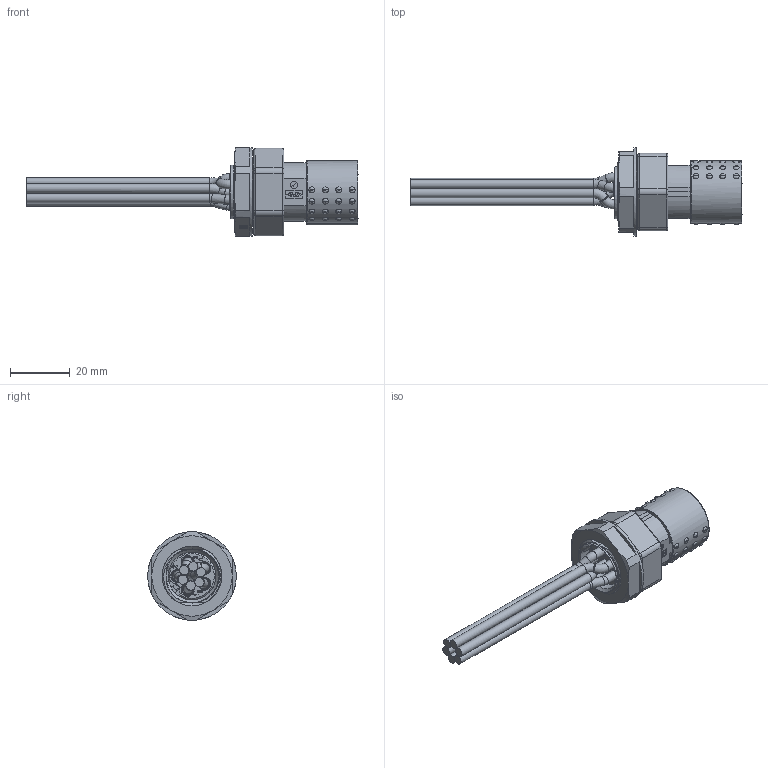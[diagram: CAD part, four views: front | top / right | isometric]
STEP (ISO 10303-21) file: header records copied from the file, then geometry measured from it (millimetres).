
FILE_DESCRIPTION (( 'STEP AP203' ), '1' );
FILE_NAME ('X-TEC_15M_EINSCHRAUB-BU_STEP.STEP', '2023-09-25T12:56:29', ( '' ), ( '' ), 'SwSTEP 2.0', 'SolidWorks 2021', '' );
FILE_SCHEMA (( 'CONFIG_CONTROL_DESIGN' ));
Length unit declared in the file: inch
Products named in the file (1): X-TEC_15M_EINSCHRAUB-BU_STEP
Bounding box: 111.46 x 29.7 x 29.7 mm (x, y, z)
Volume: 17105 mm3; surface area: 26680.7 mm2
Topology: 22 solids, 22 shells, 2347 faces, 5477 edges, 3611 vertices
Faces by surface type: plane 1077, cylinder 761, bspline 383, cone 77, torus 43, sphere 6
Full cylindrical faces by diameter (mm): 0.2 x330, 0.8 x6, 1.6 x12, 2.25 x6, 2.453 x1, 2.5 x12, 2.6 x7, 3.1 x17, 3.12 x6, 3.3 x6, 3.5 x12, 3.6 x6, 4 x6, 4.2 x3, 4.6 x4, 4.7 x4, 15.4 x1, 15.5 x1, 15.63 x1, 16 x1, 16.07 x1, 16.8 x1, 16.9 x1, 18 x1, 18.17 x1, 18.4 x1, 20.5 x1, 21 x1, 29.7 x1
Entity records: 120632 total; most frequent: CARTESIAN_POINT 72702, ORIENTED_EDGE 9604, DIRECTION 8843, EDGE_CURVE 4802, AXIS2_PLACEMENT_3D 3532, VERTEX_POINT 3480, EDGE_LOOP 3380, FACE_OUTER_BOUND 2807
